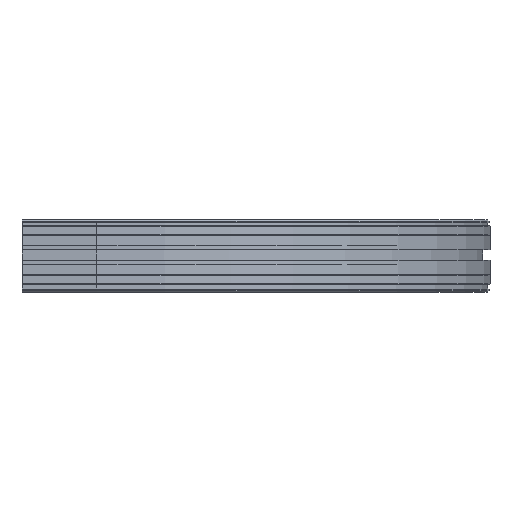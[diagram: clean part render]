
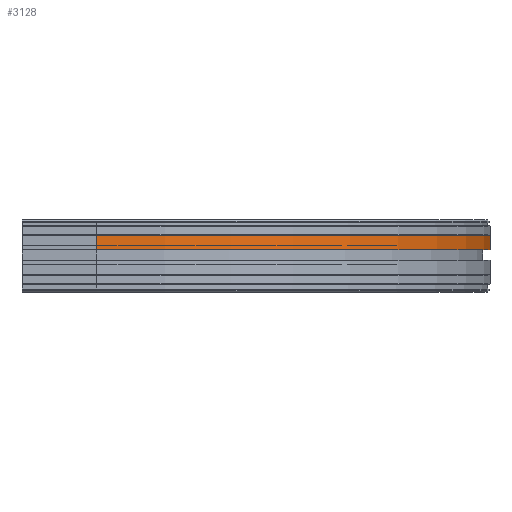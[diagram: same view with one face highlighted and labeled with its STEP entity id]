
A CAD part, front view. The second image highlights one B-rep face of the part: STEP entity #3128.
In plain terms, the highlighted cylindrical face has radius 421 mm (diameter 842 mm), a partial arc.
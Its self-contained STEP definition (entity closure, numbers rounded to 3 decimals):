
#1660=CARTESIAN_POINT('',(80.,-810.,-17.5));
#1661=VERTEX_POINT('',#1660);
#1691=CARTESIAN_POINT('',(80.,-810.,-32.5));
#1692=VERTEX_POINT('',#1691);
#1699=CARTESIAN_POINT('',(80.,-810.,-17.5));
#1700=DIRECTION('',(0.0,0.0,-1.0));
#1701=VECTOR('',#1700,15.);
#1702=LINE('',#1699,#1701);
#1703=EDGE_CURVE('',#1661,#1692,#1702,.T.);
#3085=CARTESIAN_POINT('',(80.0,32.0,-17.5));
#3086=VERTEX_POINT('',#3085);
#3087=CARTESIAN_POINT('',(80.,-389.,-17.5));
#3088=DIRECTION('',(0.0,0.0,-1.0));
#3089=DIRECTION('',(0.0,1.0,0.0));
#3090=AXIS2_PLACEMENT_3D('',#3087,#3088,#3089);
#3091=CIRCLE('',#3090,421.);
#3092=EDGE_CURVE('',#3086,#1661,#3091,.T.);
#3104=CARTESIAN_POINT('',(80.,-389.,-25.));
#3105=DIRECTION('',(0.0,0.0,-1.0));
#3106=DIRECTION('',(0.0,1.0,0.0));
#3107=AXIS2_PLACEMENT_3D('',#3104,#3105,#3106);
#3108=CYLINDRICAL_SURFACE('',#3107,421.);
#3109=ORIENTED_EDGE('',*,*,#1703,.T.);
#3110=CARTESIAN_POINT('',(80.0,32.0,-32.5));
#3111=VERTEX_POINT('',#3110);
#3112=CARTESIAN_POINT('',(80.,-389.,-32.5));
#3113=DIRECTION('',(0.0,0.0,-1.0));
#3114=DIRECTION('',(0.0,1.0,0.0));
#3115=AXIS2_PLACEMENT_3D('',#3112,#3113,#3114);
#3116=CIRCLE('',#3115,421.);
#3117=EDGE_CURVE('',#3111,#1692,#3116,.T.);
#3118=ORIENTED_EDGE('',*,*,#3117,.F.);
#3119=CARTESIAN_POINT('',(80.0,32.0,-17.5));
#3120=DIRECTION('',(0.0,0.0,-1.0));
#3121=VECTOR('',#3120,15.);
#3122=LINE('',#3119,#3121);
#3123=EDGE_CURVE('',#3086,#3111,#3122,.T.);
#3124=ORIENTED_EDGE('',*,*,#3123,.F.);
#3125=ORIENTED_EDGE('',*,*,#3092,.T.);
#3126=EDGE_LOOP('',(#3109,#3118,#3124,#3125));
#3127=FACE_OUTER_BOUND('',#3126,.T.);
#3128=ADVANCED_FACE('',(#3127),#3108,.T.);
